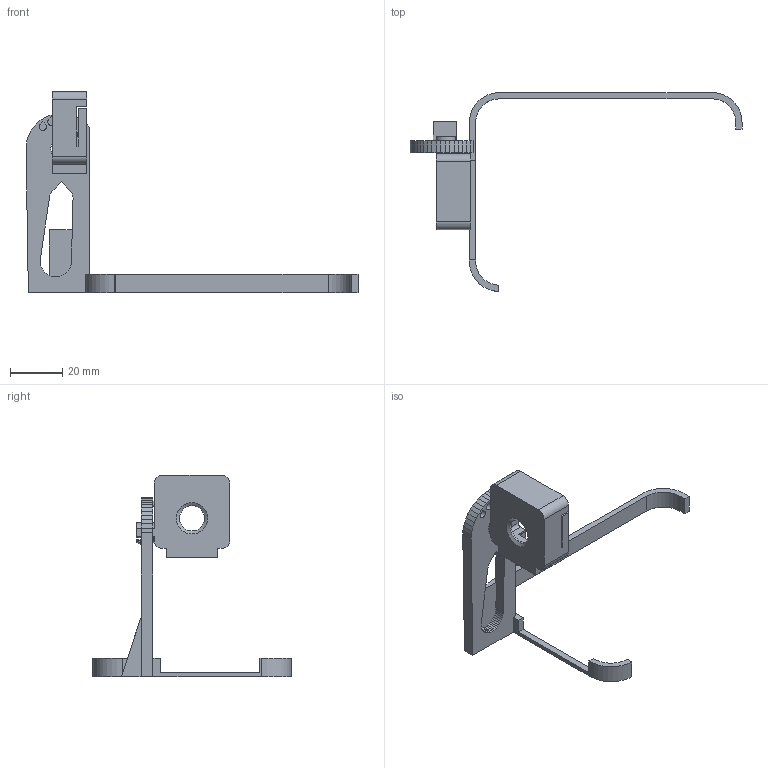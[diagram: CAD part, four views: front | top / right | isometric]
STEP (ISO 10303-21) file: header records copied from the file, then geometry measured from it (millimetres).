
FILE_DESCRIPTION(('Open CASCADE Model'),'2;1');
FILE_NAME('Open CASCADE Shape Model','2026-10-14T01:24:34',('Author'),( 'Open CASCADE'),'Open CASCADE STEP processor 8.0','build123d', 'Unknown');
FILE_SCHEMA(('AUTOMOTIVE_DESIGN { 1 0 10303 214 1 1 1 1 }'));
Length unit declared in the file: millimetre
Products named in the file (3): COMPOUND
Assembly tree (2 placements, depth 2):
  COMPOUND
    COMPOUND
    COMPOUND
Bounding box: 127.05 x 76.1 x 76.93 mm (x, y, z)
Volume: 12855 mm3; surface area: 12216.1 mm2
Topology: 2 solids, 2 shells, 189 faces, 516 edges, 343 vertices
Faces by surface type: plane 157, cylinder 30, cone 2
Full cylindrical faces by diameter (mm): 1.7 x4, 2.4 x1, 3.6 x4, 9.6 x1
Entity records: 12466 total; most frequent: CARTESIAN_POINT 2579, DIRECTION 1662, LINE 1087, VECTOR 1087, ORIENTED_EDGE 1032, PCURVE 1032, DEFINITIONAL_REPRESENTATION 1032, EDGE_CURVE 516
